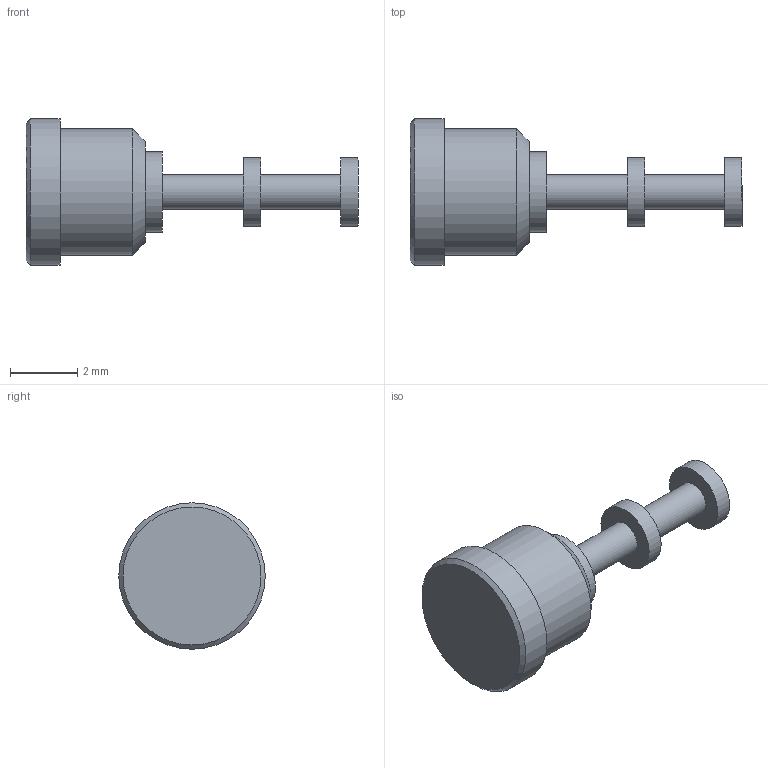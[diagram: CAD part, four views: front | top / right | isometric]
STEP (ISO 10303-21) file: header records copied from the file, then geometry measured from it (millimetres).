
FILE_DESCRIPTION(/* description */ (''),/* implementation_level */ '2;1');
FILE_NAME(/* name */ '\\Snap1\dwgs\Customer 3D Models\571\571-4034-01 Customer model.stp',/* time_stamp */ '2017-01-05T10:59:35+00:00',/* author */ ('paulk'),/* organization */ (''),/* preprocessor_version */ 'ST-DEVELOPER v15.2',/* originating_system */ 'Autodesk Inventor 2014',/* authorisation */ '');
FILE_SCHEMA (('CONFIG_CONTROL_DESIGN'));
Length unit declared in the file: millimetre
Products named in the file (1): 571-4034-01 Customer model
Bounding box: 9.91 x 4.37 x 4.37 mm (x, y, z)
Volume: 52.4 mm3; surface area: 105.7 mm2
Topology: 1 solids, 1 shells, 17 faces, 25 edges, 16 vertices
Faces by surface type: plane 8, cylinder 7, cone 2
Full cylindrical faces by diameter (mm): 1.016 x2, 2.032 x2, 2.388 x1, 3.785 x1, 4.369 x1
Entity records: 386 total; most frequent: DIRECTION 68, CARTESIAN_POINT 50, AXIS2_PLACEMENT_3D 34, EDGE_LOOP 32, ORIENTED_EDGE 32, FACE_BOUND 19, STYLED_ITEM 18, ADVANCED_FACE 17
